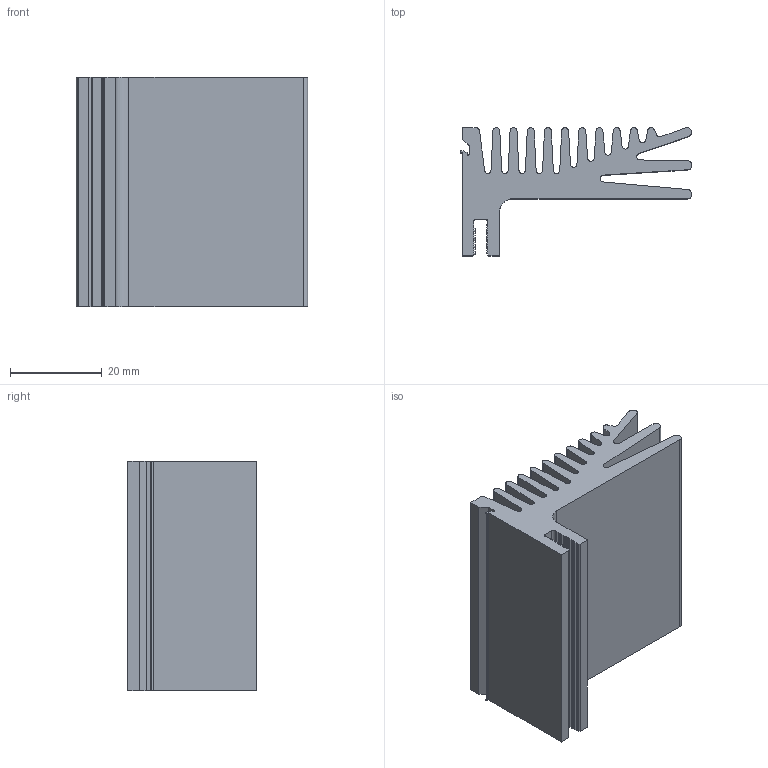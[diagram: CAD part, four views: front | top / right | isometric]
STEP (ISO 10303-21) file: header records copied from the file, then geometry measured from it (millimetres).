
FILE_DESCRIPTION (( 'STEP AP203' ), '1' );
FILE_NAME ('PR 233-50.step', '2002-10-21T08:31:18', ( 'Wolfgang Müller' ), ( 'DPS' ), 'SwSTEP 2.0', 'SolidWorks 2002264', '' );
FILE_SCHEMA (( 'CONFIG_CONTROL_DESIGN' ));
Length unit declared in the file: millimetre
Products named in the file (1): PR 233-50
Bounding box: 50.5 x 28 x 50 mm (x, y, z)
Volume: 29671 mm3; surface area: 20029.5 mm2
Topology: 1 solids, 1 shells, 205 faces, 609 edges, 406 vertices
Faces by surface type: cylinder 109, plane 96
Entity records: 7018 total; most frequent: DIRECTION 1239, CARTESIAN_POINT 1221, ORIENTED_EDGE 1218, EDGE_CURVE 609, AXIS2_PLACEMENT_3D 424, VERTEX_POINT 406, LINE 391, VECTOR 391
